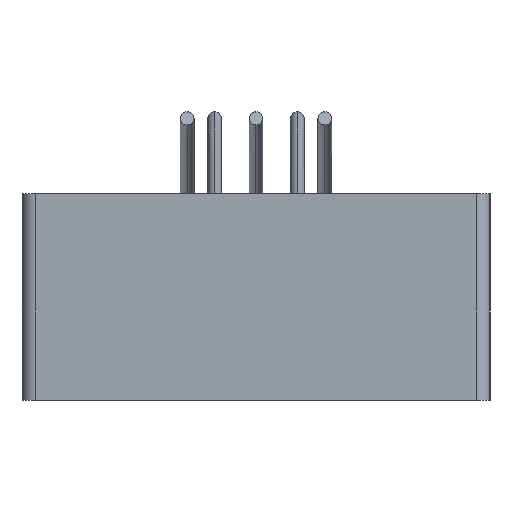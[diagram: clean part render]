
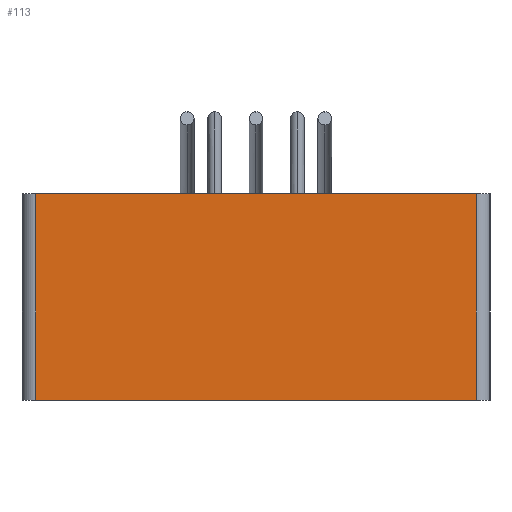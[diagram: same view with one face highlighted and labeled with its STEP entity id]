
A CAD part, left-side view. The second image highlights one B-rep face of the part: STEP entity #113.
In plain terms, the highlighted planar face has unit normal (-1, 0, 0).
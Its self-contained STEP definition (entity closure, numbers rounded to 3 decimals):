
#113 = ADVANCED_FACE( '', ( #194 ), #195, .T. );
#194 = FACE_OUTER_BOUND( '', #292, .T. );
#195 = PLANE( '', #293 );
#292 = EDGE_LOOP( '', ( #574, #575, #576, #577 ) );
#293 = AXIS2_PLACEMENT_3D( '', #578, #579, #580 );
#574 = ORIENTED_EDGE( '', *, *, #741, .T. );
#575 = ORIENTED_EDGE( '', *, *, #742, .F. );
#576 = ORIENTED_EDGE( '', *, *, #743, .F. );
#577 = ORIENTED_EDGE( '', *, *, #739, .T. );
#578 = CARTESIAN_POINT( '', ( -27., 16., 0. ) );
#579 = DIRECTION( '', ( -1., 0., 0. ) );
#580 = DIRECTION( '', ( 0., 1., 0. ) );
#739 = EDGE_CURVE( '', #906, #904, #907, .T. );
#741 = EDGE_CURVE( '', #904, #909, #910, .T. );
#742 = EDGE_CURVE( '', #911, #909, #912, .T. );
#743 = EDGE_CURVE( '', #906, #911, #913, .T. );
#904 = VERTEX_POINT( '', #1120 );
#906 = VERTEX_POINT( '', #1122 );
#907 = LINE( '', #1123, #1124 );
#909 = VERTEX_POINT( '', #1126 );
#910 = LINE( '', #1127, #1128 );
#911 = VERTEX_POINT( '', #1129 );
#912 = LINE( '', #1130, #1131 );
#913 = LINE( '', #1132, #1133 );
#1120 = CARTESIAN_POINT( '', ( -27., 16., -15. ) );
#1122 = CARTESIAN_POINT( '', ( -27., 16., 0. ) );
#1123 = CARTESIAN_POINT( '', ( -27., 16., 0. ) );
#1124 = VECTOR( '', #1329, 1. );
#1126 = CARTESIAN_POINT( '', ( -27., -16., -15. ) );
#1127 = CARTESIAN_POINT( '', ( -27., 16., -15. ) );
#1128 = VECTOR( '', #1333, 1. );
#1129 = CARTESIAN_POINT( '', ( -27., -16., 0. ) );
#1130 = CARTESIAN_POINT( '', ( -27., -16., 0. ) );
#1131 = VECTOR( '', #1334, 1. );
#1132 = CARTESIAN_POINT( '', ( -27., 16., 0. ) );
#1133 = VECTOR( '', #1335, 1. );
#1329 = DIRECTION( '', ( 0., 0., -1. ) );
#1333 = DIRECTION( '', ( 0., -1., 0. ) );
#1334 = DIRECTION( '', ( 0., 0., -1. ) );
#1335 = DIRECTION( '', ( 0., -1., 0. ) );
